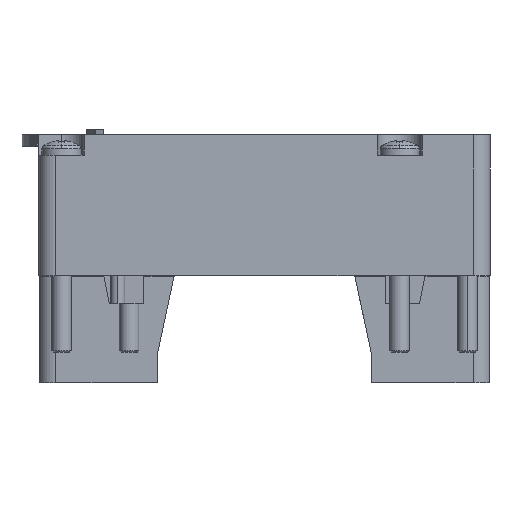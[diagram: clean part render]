
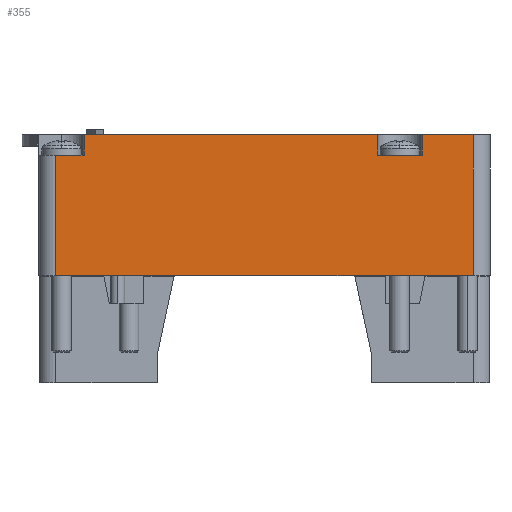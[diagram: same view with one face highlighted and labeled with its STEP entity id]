
A CAD part, left-side view. The second image highlights one B-rep face of the part: STEP entity #355.
In plain terms, the highlighted planar face has unit normal (-1, 0, 0).
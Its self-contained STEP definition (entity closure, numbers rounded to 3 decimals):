
#355 = ADVANCED_FACE( '', ( #1138 ), #1139, .T. );
#1138 = FACE_OUTER_BOUND( '', #2128, .T. );
#1139 = PLANE( '', #2129 );
#2128 = EDGE_LOOP( '', ( #4575, #4576, #4577, #4578, #4579, #4580, #4581, #4582, #4583, #4584 ) );
#2129 = AXIS2_PLACEMENT_3D( '', #4585, #4586, #4587 );
#4575 = ORIENTED_EDGE( '', *, *, #6801, .T. );
#4576 = ORIENTED_EDGE( '', *, *, #6802, .T. );
#4577 = ORIENTED_EDGE( '', *, *, #6803, .T. );
#4578 = ORIENTED_EDGE( '', *, *, #6804, .T. );
#4579 = ORIENTED_EDGE( '', *, *, #6805, .T. );
#4580 = ORIENTED_EDGE( '', *, *, #6806, .T. );
#4581 = ORIENTED_EDGE( '', *, *, #6807, .F. );
#4582 = ORIENTED_EDGE( '', *, *, #6570, .T. );
#4583 = ORIENTED_EDGE( '', *, *, #6808, .T. );
#4584 = ORIENTED_EDGE( '', *, *, #6809, .T. );
#4585 = CARTESIAN_POINT( '', ( 0., 2.9, 0. ) );
#4586 = DIRECTION( '', ( -1., 0., 0. ) );
#4587 = DIRECTION( '', ( 0., -1., 0. ) );
#6570 = EDGE_CURVE( '', #8088, #8086, #8089, .T. );
#6801 = EDGE_CURVE( '', #8399, #8400, #8401, .T. );
#6802 = EDGE_CURVE( '', #8400, #8402, #8403, .T. );
#6803 = EDGE_CURVE( '', #8402, #8404, #8405, .T. );
#6804 = EDGE_CURVE( '', #8404, #8406, #8407, .T. );
#6805 = EDGE_CURVE( '', #8406, #8408, #8409, .T. );
#6806 = EDGE_CURVE( '', #8408, #8410, #8411, .T. );
#6807 = EDGE_CURVE( '', #8088, #8410, #8412, .T. );
#6808 = EDGE_CURVE( '', #8086, #8413, #8414, .T. );
#6809 = EDGE_CURVE( '', #8413, #8399, #8415, .T. );
#8086 = VERTEX_POINT( '', #10205 );
#8088 = VERTEX_POINT( '', #10207 );
#8089 = LINE( '', #10208, #10209 );
#8399 = VERTEX_POINT( '', #10626 );
#8400 = VERTEX_POINT( '', #10627 );
#8401 = LINE( '', #10628, #10629 );
#8402 = VERTEX_POINT( '', #10630 );
#8403 = LINE( '', #10631, #10632 );
#8404 = VERTEX_POINT( '', #10633 );
#8405 = LINE( '', #10634, #10635 );
#8406 = VERTEX_POINT( '', #10636 );
#8407 = LINE( '', #10637, #10638 );
#8408 = VERTEX_POINT( '', #10639 );
#8409 = LINE( '', #10640, #10641 );
#8410 = VERTEX_POINT( '', #10642 );
#8411 = LINE( '', #10643, #10644 );
#8412 = LINE( '', #10645, #10646 );
#8413 = VERTEX_POINT( '', #10647 );
#8414 = LINE( '', #10648, #10649 );
#8415 = LINE( '', #10650, #10651 );
#10205 = CARTESIAN_POINT( '', ( 0., 3., 19. ) );
#10207 = CARTESIAN_POINT( '', ( 0., 77., 19. ) );
#10208 = CARTESIAN_POINT( '', ( 0., 1.45, 19. ) );
#10209 = VECTOR( '', #12526, 1. );
#10626 = CARTESIAN_POINT( '', ( 0., 12., 44. ) );
#10627 = CARTESIAN_POINT( '', ( 0., 12., 40.4 ) );
#10628 = CARTESIAN_POINT( '', ( 0., 12., 22. ) );
#10629 = VECTOR( '', #13003, 1. );
#10630 = CARTESIAN_POINT( '', ( 0., 20., 40.4 ) );
#10631 = CARTESIAN_POINT( '', ( 0., 1.45, 40.4 ) );
#10632 = VECTOR( '', #13004, 1. );
#10633 = CARTESIAN_POINT( '', ( 0., 20., 44. ) );
#10634 = CARTESIAN_POINT( '', ( 0., 20., 22. ) );
#10635 = VECTOR( '', #13005, 1. );
#10636 = CARTESIAN_POINT( '', ( 0., 72., 44. ) );
#10637 = CARTESIAN_POINT( '', ( 0., 77., 44. ) );
#10638 = VECTOR( '', #13006, 1. );
#10639 = CARTESIAN_POINT( '', ( 0., 72., 40.4 ) );
#10640 = CARTESIAN_POINT( '', ( 0., 72., 22. ) );
#10641 = VECTOR( '', #13007, 1. );
#10642 = CARTESIAN_POINT( '', ( 0., 77., 40.4 ) );
#10643 = CARTESIAN_POINT( '', ( 0., 1.45, 40.4 ) );
#10644 = VECTOR( '', #13008, 1. );
#10645 = CARTESIAN_POINT( '', ( 0., 77., 19. ) );
#10646 = VECTOR( '', #13009, 1. );
#10647 = CARTESIAN_POINT( '', ( 0., 3., 44. ) );
#10648 = CARTESIAN_POINT( '', ( 0., 3., 19. ) );
#10649 = VECTOR( '', #13010, 1. );
#10650 = CARTESIAN_POINT( '', ( 0., 77., 44. ) );
#10651 = VECTOR( '', #13011, 1. );
#12526 = DIRECTION( '', ( 0., -1., 0. ) );
#13003 = DIRECTION( '', ( 0., 0., -1. ) );
#13004 = DIRECTION( '', ( 0., 1., 0. ) );
#13005 = DIRECTION( '', ( 0., 0., 1. ) );
#13006 = DIRECTION( '', ( 0., 1., 0. ) );
#13007 = DIRECTION( '', ( 0., 0., -1. ) );
#13008 = DIRECTION( '', ( 0., 1., 0. ) );
#13009 = DIRECTION( '', ( 0., 0., 1. ) );
#13010 = DIRECTION( '', ( 0., 0., 1. ) );
#13011 = DIRECTION( '', ( 0., 1., 0. ) );
